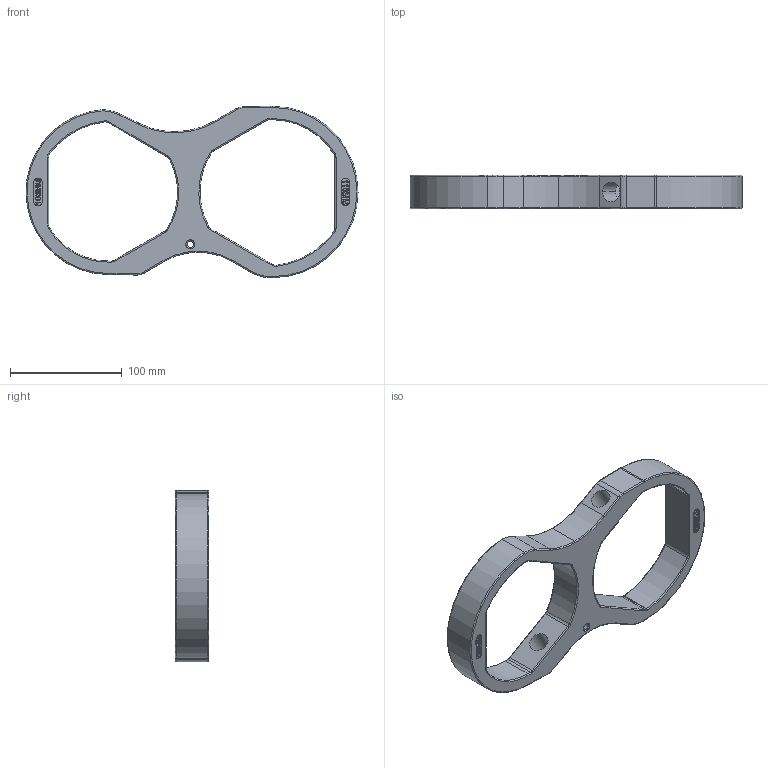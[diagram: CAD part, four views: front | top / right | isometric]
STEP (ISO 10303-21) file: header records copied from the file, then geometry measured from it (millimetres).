
FILE_DESCRIPTION (( 'STEP AP214' ), '1' );
FILE_NAME ('NF11.STEP', '2019-12-09T14:13:26', ( '' ), ( '' ), 'SwSTEP 2.0', 'SolidWorks 2017', '' );
FILE_SCHEMA (( 'AUTOMOTIVE_DESIGN' ));
Length unit declared in the file: millimetre
Products named in the file (1): NF11
Bounding box: 296.86 x 30 x 153.33 mm (x, y, z)
Volume: 394282.7 mm3; surface area: 75135.8 mm2
Topology: 1 solids, 1 shells, 424 faces, 1098 edges, 704 vertices
Faces by surface type: plane 198, bspline 86, cylinder 74, torus 62, cone 4
Entity records: 17206 total; most frequent: CARTESIAN_POINT 7179, ORIENTED_EDGE 2196, DIRECTION 1858, EDGE_CURVE 1098, VERTEX_POINT 704, VECTOR 668, LINE 668, AXIS2_PLACEMENT_3D 595
